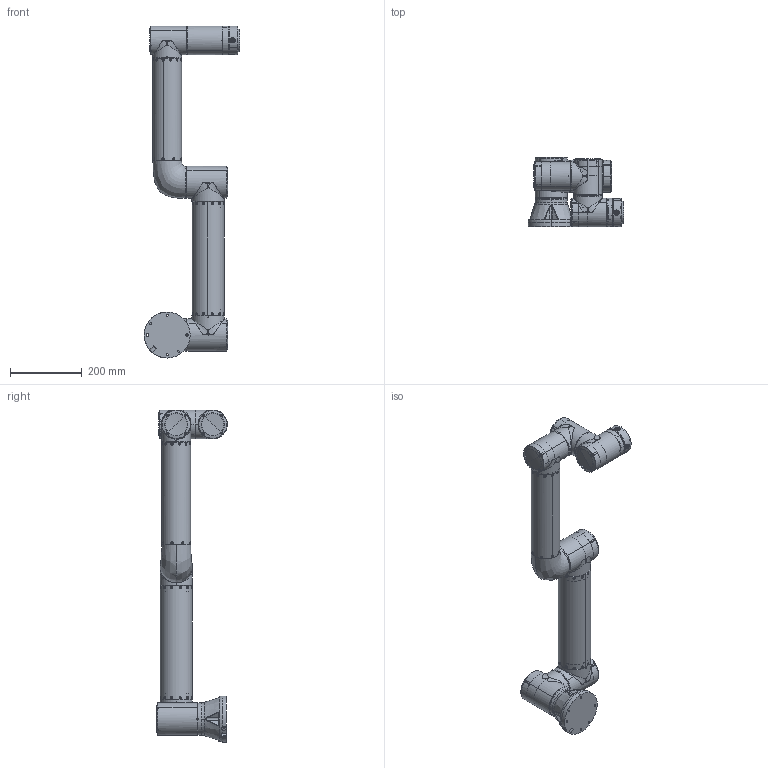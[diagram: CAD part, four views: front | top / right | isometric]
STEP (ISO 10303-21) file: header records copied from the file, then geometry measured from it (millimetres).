
FILE_DESCRIPTION (( 'STEP AP203' ), '1' );
FILE_NAME ('RD37.3-FR3WML±¾Ìå.STEP', '2025-03-24T01:45:17', ( '' ), ( '' ), 'SwSTEP 2.0', 'SolidWorks 2018', '' );
FILE_SCHEMA (( 'CONFIG_CONTROL_DESIGN' ));
Length unit declared in the file: millimetre
Products named in the file (7): RD37.3-FR3WMS-V1.0-1; RD37.3-FR3WML掛极; RD37.3-FR3WML-3; RD37.3-FR3WML-7; RD37.3-FR3WML-4; RD37.3-FR3WML-2; RD37.3-FR3WML-5
Assembly tree (7 placements, depth 2):
  RD37.3-FR3WML掛极
    RD37.3-FR3WMS-V1.0-1
    RD37.3-FR3WML-2
    RD37.3-FR3WML-3
    RD37.3-FR3WML-4
    RD37.3-FR3WML-5  x2
    RD37.3-FR3WML-7
Bounding box: 266 x 195.99 x 924 mm (x, y, z)
Volume: 8967986.9 mm3; surface area: 886892.2 mm2
Topology: 31 solids, 91 shells, 3214 faces, 7713 edges, 4741 vertices
Faces by surface type: plane 1410, cylinder 956, cone 444, bspline 238, sphere 86, torus 80
Entity records: 130921 total; most frequent: CARTESIAN_POINT 62152, ORIENTED_EDGE 14126, DIRECTION 14085, EDGE_CURVE 7063, AXIS2_PLACEMENT_3D 5380, VERTEX_POINT 4398, LINE 3325, VECTOR 3325
